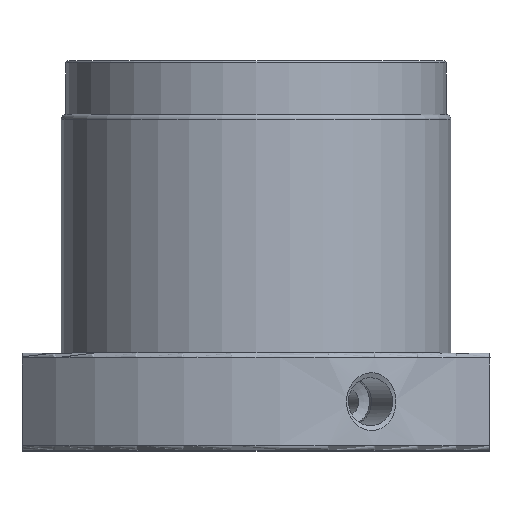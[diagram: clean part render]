
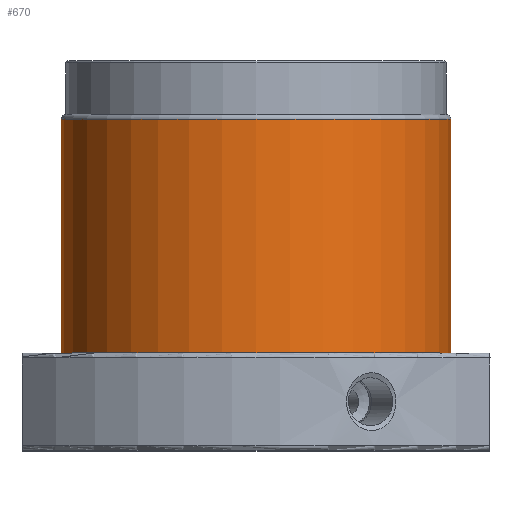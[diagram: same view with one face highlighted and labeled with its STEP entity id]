
A CAD part, top view. The second image highlights one B-rep face of the part: STEP entity #670.
In plain terms, the highlighted cylindrical face has radius 20 mm (diameter 40 mm), a full revolution.
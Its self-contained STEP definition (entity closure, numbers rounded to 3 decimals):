
#79=ORIENTED_EDGE('',*,*,#187,.T.);
#80=ORIENTED_EDGE('',*,*,#188,.F.);
#187=EDGE_CURVE('',#241,#241,#283,.F.);
#188=EDGE_CURVE('',#242,#242,#284,.F.);
#241=VERTEX_POINT('',#1029);
#242=VERTEX_POINT('',#1031);
#283=CIRCLE('',#712,20.);
#284=CIRCLE('',#713,20.);
#319=EDGE_LOOP('',(#79));
#320=EDGE_LOOP('',(#80));
#383=FACE_BOUND('',#319,.T.);
#384=FACE_BOUND('',#320,.T.);
#441=CYLINDRICAL_SURFACE('',#711,20.);
#670=ADVANCED_FACE('',(#383,#384),#441,.T.);
#711=AXIS2_PLACEMENT_3D('',#1027,#790,#791);
#712=AXIS2_PLACEMENT_3D('',#1028,#792,#793);
#713=AXIS2_PLACEMENT_3D('',#1030,#794,#795);
#790=DIRECTION('',(0.,-1.,0.));
#791=DIRECTION('',(0.,0.,-1.));
#792=DIRECTION('',(0.,1.,0.));
#793=DIRECTION('',(0.,0.,1.));
#794=DIRECTION('',(0.,1.,0.));
#795=DIRECTION('',(0.,0.,1.));
#1027=CARTESIAN_POINT('',(0.,40.,0.));
#1028=CARTESIAN_POINT('',(0.,34.,0.));
#1029=CARTESIAN_POINT('',(0.,34.,20.));
#1030=CARTESIAN_POINT('',(0.,10.,0.));
#1031=CARTESIAN_POINT('',(0.,10.,20.));
